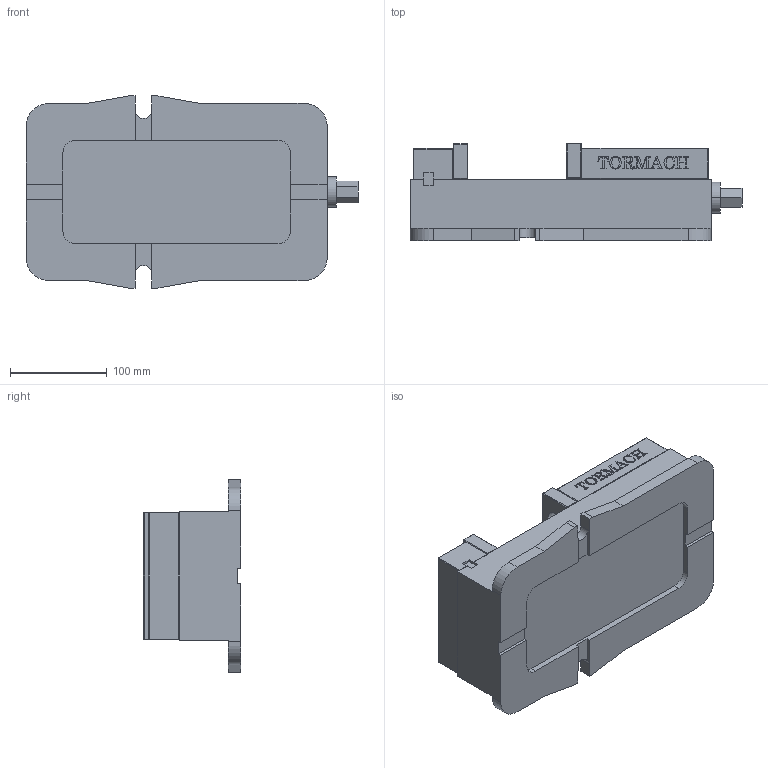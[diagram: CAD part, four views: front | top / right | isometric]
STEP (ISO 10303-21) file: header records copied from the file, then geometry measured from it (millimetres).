
FILE_DESCRIPTION (( 'STEP AP214' ), '1' );
FILE_NAME ('30553 MACHINIST VISE 5 INCH.STEP', '2013-06-12T18:27:15', ( '' ), ( '' ), 'SwSTEP 2.0', 'SolidWorks 2012', '' );
FILE_SCHEMA (( 'AUTOMOTIVE_DESIGN' ));
Length unit declared in the file: inch
Products named in the file (1): 30553 MACHINIST VISE 5 INCH
Bounding box: 342.39 x 100.58 x 198.75 mm (x, y, z)
Volume: 3508348 mm3; surface area: 283673.7 mm2
Topology: 5 solids, 5 shells, 533 faces, 1489 edges, 988 vertices
Faces by surface type: plane 360, bspline 136, cylinder 33, cone 4
Entity records: 23077 total; most frequent: CARTESIAN_POINT 10151, ORIENTED_EDGE 2970, DIRECTION 2079, EDGE_CURVE 1485, LINE 1143, VECTOR 1143, VERTEX_POINT 988, EDGE_LOOP 569
